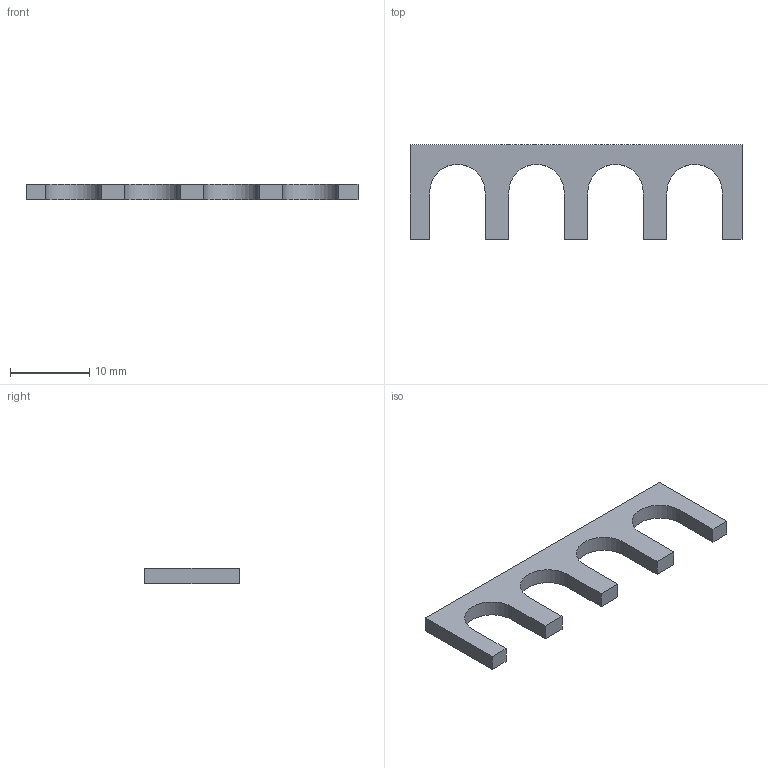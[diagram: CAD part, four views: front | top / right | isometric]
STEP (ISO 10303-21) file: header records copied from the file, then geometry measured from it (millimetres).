
FILE_DESCRIPTION(('CATIA V5 STEP Exchange'),'2;1');
FILE_NAME('\\mechanus\Mechanus\KONSTRUKCE-MONTAZ\PRODUKTY MECHANUS\MS006-SERIZOVACI PRVKY\ADMINISTRATIVA\podklady\simsy modely\MECHANUS šimsy\Mechanus--simsa--12x42 tl.2 (1242-200).stp','2024-03-13T12:27:55+00:00',('none'),('none'),'CATIA Version 5 Release 19 GA (IN-10)','CATIA V5 STEP AP203','none');
FILE_SCHEMA(('CONFIG_CONTROL_DESIGN'));
Length unit declared in the file: millimetre
Products named in the file (1): Mechanus--simsa--12x42 tl.2 (1242-200)
Bounding box: 42 x 12 x 2 mm (x, y, z)
Volume: 518.1 mm3; surface area: 862 mm2
Topology: 1 solids, 1 shells, 22 faces, 60 edges, 40 vertices
Faces by surface type: plane 18, cylinder 4
Entity records: 706 total; most frequent: ORIENTED_EDGE 120, CARTESIAN_POINT 119, DIRECTION 96, EDGE_CURVE 60, VECTOR 52, LINE 52, VERTEX_POINT 40, AXIS2_PLACEMENT_3D 27
